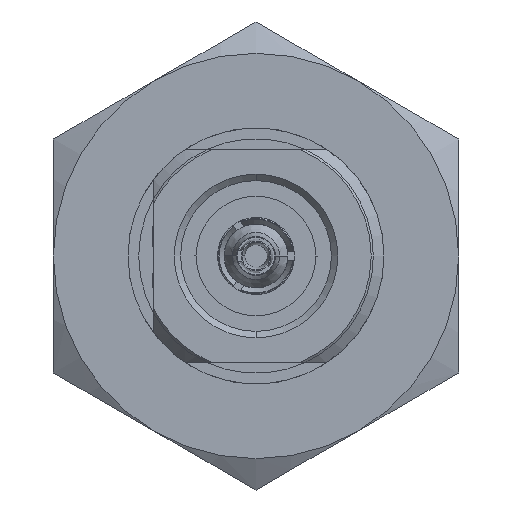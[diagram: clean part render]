
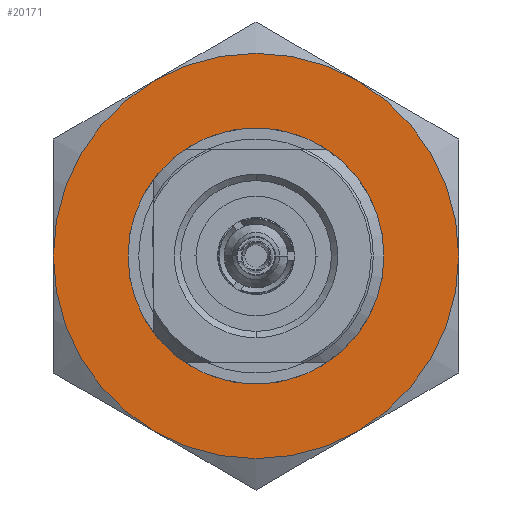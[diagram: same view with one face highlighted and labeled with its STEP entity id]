
A CAD part, left-side view. The second image highlights one B-rep face of the part: STEP entity #20171.
In plain terms, the highlighted planar face has unit normal (-1, 0, 0).
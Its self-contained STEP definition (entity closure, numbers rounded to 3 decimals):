
#19734=CARTESIAN_POINT('',(0.,0.,0.));
#19735=DIRECTION('',(1.,0.,0.));
#19736=DIRECTION('',(0.,0.,1.));
#19737=AXIS2_PLACEMENT_3D('',#19734,#19735,#19736);
#19739=CARTESIAN_POINT('',(0.,0.,0.));
#19740=DIRECTION('',(1.,0.,0.));
#19741=DIRECTION('',(0.,0.,-1.));
#19742=AXIS2_PLACEMENT_3D('',#19739,#19740,#19741);
#19744=CARTESIAN_POINT('',(0.,0.,0.));
#19745=DIRECTION('',(1.,0.,0.));
#19746=DIRECTION('',(0.,1.,0.));
#19747=AXIS2_PLACEMENT_3D('',#19744,#19745,#19746);
#19749=CARTESIAN_POINT('',(0.,0.,0.));
#19750=DIRECTION('',(1.,0.,0.));
#19751=DIRECTION('',(0.,0.5,0.866));
#19752=AXIS2_PLACEMENT_3D('',#19749,#19750,#19751);
#19754=CARTESIAN_POINT('',(0.,0.,0.));
#19755=DIRECTION('',(1.,0.,0.));
#19756=DIRECTION('',(0.,-1.,0.));
#19757=AXIS2_PLACEMENT_3D('',#19754,#19755,#19756);
#19759=CARTESIAN_POINT('',(0.,0.,0.));
#19760=DIRECTION('',(1.,0.,0.));
#19761=DIRECTION('',(0.,-0.5,-0.866));
#19762=AXIS2_PLACEMENT_3D('',#19759,#19760,#19761);
#19890=CARTESIAN_POINT('',(0.,9.5,
0.));
#19923=CARTESIAN_POINT('',(0.,0.,0.));
#19924=DIRECTION('',(-1.,0.,0.));
#19925=DIRECTION('',(0.,-1.,0.));
#19926=AXIS2_PLACEMENT_3D('',#19923,#19924,#19925);
#19928=CARTESIAN_POINT('',(0.,0.,0.));
#19929=DIRECTION('',(-1.,0.,0.));
#19930=DIRECTION('',(0.,1.,0.));
#19931=AXIS2_PLACEMENT_3D('',#19928,#19929,#19930);
#19940=CARTESIAN_POINT('',(0.,-4.75,
8.227));
#20098=CARTESIAN_POINT('',(0.,0.,5.7));
#20099=CARTESIAN_POINT('',(0.,0.,-5.7));
#20100=VERTEX_POINT('',#20098);
#20101=VERTEX_POINT('',#20099);
#20115=VERTEX_POINT('',#19890);
#20119=VERTEX_POINT('',#19940);
#20122=CARTESIAN_POINT('',(0.,4.75,8.227));
#20123=VERTEX_POINT('',#20122);
#20124=CARTESIAN_POINT('',(0.,-9.5,0.));
#20125=CARTESIAN_POINT('',(0.,-4.75,-8.227));
#20126=VERTEX_POINT('',#20124);
#20127=VERTEX_POINT('',#20125);
#20128=CARTESIAN_POINT('',(0.,4.75,-8.227));
#20129=VERTEX_POINT('',#20128);
#20146=CARTESIAN_POINT('',(0.,0.,0.));
#20147=DIRECTION('',(1.,0.,0.));
#20148=DIRECTION('',(0.,-1.,0.));
#20149=AXIS2_PLACEMENT_3D('',#20146,#20147,#20148);
#20150=PLANE('',#20149);
#20152=ORIENTED_EDGE('',*,*,#20151,.F.);
#20154=ORIENTED_EDGE('',*,*,#20153,.T.);
#20156=ORIENTED_EDGE('',*,*,#20155,.T.);
#20158=ORIENTED_EDGE('',*,*,#20157,.F.);
#20160=ORIENTED_EDGE('',*,*,#20159,.T.);
#20162=ORIENTED_EDGE('',*,*,#20161,.T.);
#20163=EDGE_LOOP('',(#20152,#20154,#20156,#20158,#20160,#20162));
#20164=FACE_OUTER_BOUND('',#20163,.F.);
#20166=ORIENTED_EDGE('',*,*,#20165,.F.);
#20168=ORIENTED_EDGE('',*,*,#20167,.F.);
#20169=EDGE_LOOP('',(#20166,#20168));
#20170=FACE_BOUND('',#20169,.F.);
#20171=ADVANCED_FACE('',(#20164,#20170),#20150,.F.);
#19738=CIRCLE('',#19737,5.7);
#19743=CIRCLE('',#19742,5.7);
#19748=CIRCLE('',#19747,9.5);
#19753=CIRCLE('',#19752,9.5);
#19758=CIRCLE('',#19757,9.5);
#19763=CIRCLE('',#19762,9.5);
#19927=CIRCLE('',#19926,9.5);
#19932=CIRCLE('',#19931,9.5);
#20151=EDGE_CURVE('',#20115,#20129,#19932,.T.);
#20153=EDGE_CURVE('',#20115,#20123,#19748,.T.);
#20155=EDGE_CURVE('',#20123,#20119,#19753,.T.);
#20157=EDGE_CURVE('',#20126,#20119,#19927,.T.);
#20159=EDGE_CURVE('',#20126,#20127,#19758,.T.);
#20161=EDGE_CURVE('',#20127,#20129,#19763,.T.);
#20165=EDGE_CURVE('',#20100,#20101,#19738,.T.);
#20167=EDGE_CURVE('',#20101,#20100,#19743,.T.);
